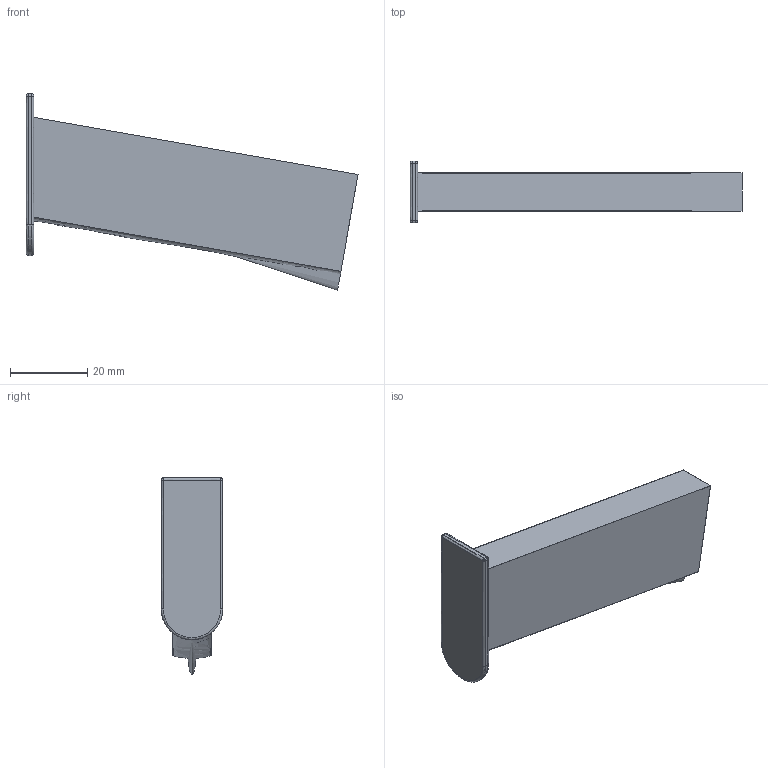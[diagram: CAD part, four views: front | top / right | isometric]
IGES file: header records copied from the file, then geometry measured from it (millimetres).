
Start section:  PTC IGES file: C:\Documents and Settings\audibk\personal\guns\walther\W alther_PPK\iges\magazine01.igs
Global section: file name: C:\Documents and Settings\audibk\personal\guns\walther\Walther_PPK\iges\magazine01.igs; native system: Pro/ENGINEER by Parametric Technology Corporation; preprocessor: 2002180; author: audibk; organization: Unknown; date: 030409.105325; units: millimetre
Bounding box: 86 x 16 x 50.91 mm (x, y, z)
Volume: 39800.1 mm3; surface area: 13774.4 mm2
Topology: 1 solids, 1 shells, 49 faces, 104 edges, 58 vertices
Faces by surface type: bspline 49
